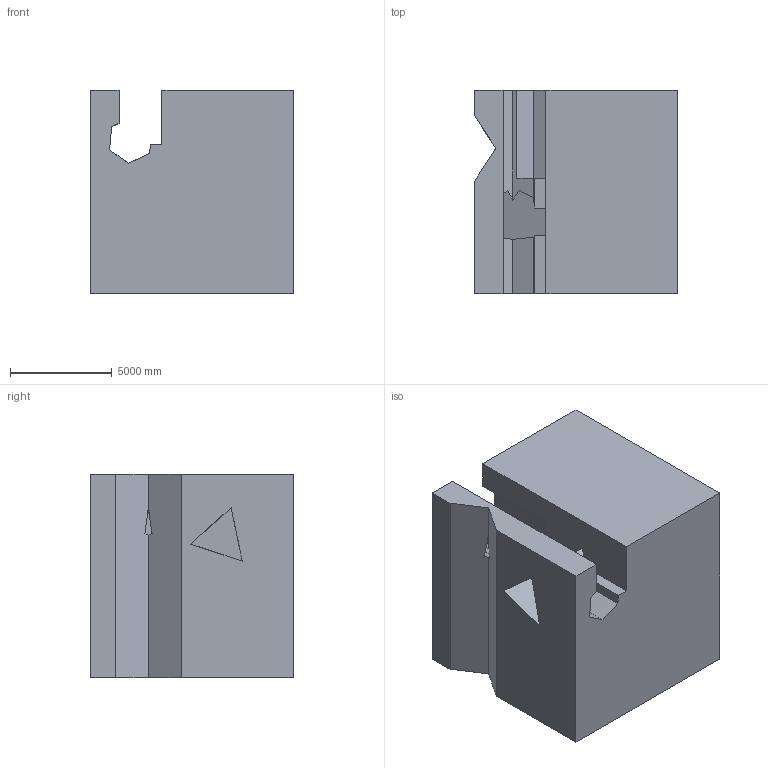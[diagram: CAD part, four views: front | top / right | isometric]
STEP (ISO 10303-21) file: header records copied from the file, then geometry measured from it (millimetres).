
FILE_DESCRIPTION (( 'STEP AP203' ), '1' );
FILE_NAME ('685.STEP', '2022-07-29T12:31:11', ( 'user' ), ( '' ), 'SwSTEP 2.0', 'SolidWorks 2021', '' );
FILE_SCHEMA (( 'CONFIG_CONTROL_DESIGN' ));
Length unit declared in the file: centimetre
Products named in the file (1): 685
Bounding box: 10000 x 10000 x 10000 mm (x, y, z)
Volume: 852945362660.4 mm3; surface area: 755850159.6 mm2
Topology: 1 solids, 1 shells, 48 faces, 141 edges, 94 vertices
Faces by surface type: plane 48
Entity records: 1650 total; most frequent: CARTESIAN_POINT 284, ORIENTED_EDGE 282, DIRECTION 239, LINE 141, EDGE_CURVE 141, VECTOR 141, VERTEX_POINT 94, EDGE_LOOP 51
